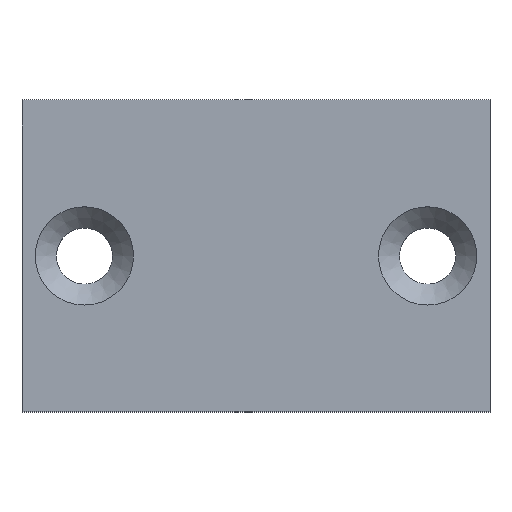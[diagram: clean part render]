
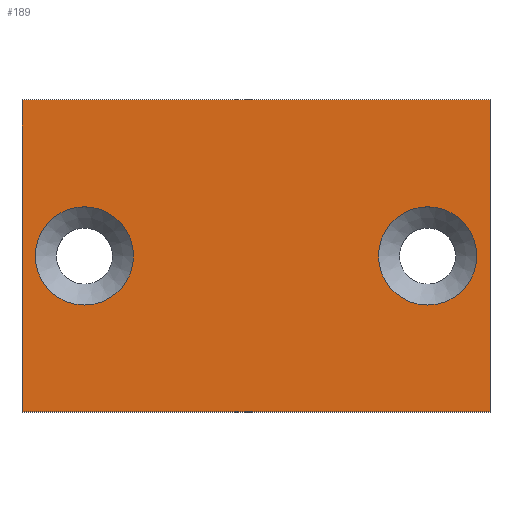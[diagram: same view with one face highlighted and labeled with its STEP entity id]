
A CAD part, top view. The second image highlights one B-rep face of the part: STEP entity #189.
In plain terms, the highlighted planar face has unit normal (0, 0, 1).
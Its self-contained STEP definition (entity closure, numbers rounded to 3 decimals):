
#19=LINE('',#303,#31);
#21=LINE('',#307,#33);
#23=LINE('',#311,#35);
#25=LINE('',#314,#37);
#31=VECTOR('',#252,20.);
#33=VECTOR('',#256,30.);
#35=VECTOR('',#260,20.);
#37=VECTOR('',#264,30.);
#43=PLANE('',#212);
#57=FACE_BOUND('',#89,.T.);
#58=FACE_BOUND('',#90,.T.);
#59=FACE_BOUND('',#91,.T.);
#89=EDGE_LOOP('',(#170));
#90=EDGE_LOOP('',(#171));
#91=EDGE_LOOP('',(#172,#173,#174,#175));
#96=CIRCLE('',#200,3.15);
#97=CIRCLE('',#202,3.15);
#104=VERTEX_POINT('',#279);
#105=VERTEX_POINT('',#282);
#112=VERTEX_POINT('',#300);
#113=VERTEX_POINT('',#302);
#114=VERTEX_POINT('',#306);
#115=VERTEX_POINT('',#310);
#120=EDGE_CURVE('',#104,#104,#96,.T.);
#121=EDGE_CURVE('',#105,#105,#97,.T.);
#129=EDGE_CURVE('',#113,#112,#19,.T.);
#131=EDGE_CURVE('',#114,#113,#21,.T.);
#133=EDGE_CURVE('',#115,#114,#23,.T.);
#135=EDGE_CURVE('',#112,#115,#25,.T.);
#170=ORIENTED_EDGE('',*,*,#120,.T.);
#171=ORIENTED_EDGE('',*,*,#121,.T.);
#172=ORIENTED_EDGE('',*,*,#135,.T.);
#173=ORIENTED_EDGE('',*,*,#133,.T.);
#174=ORIENTED_EDGE('',*,*,#131,.T.);
#175=ORIENTED_EDGE('',*,*,#129,.T.);
#189=ADVANCED_FACE('',(#57,#58,#59),#43,.T.);
#200=AXIS2_PLACEMENT_3D('',#280,#229,#230);
#202=AXIS2_PLACEMENT_3D('',#283,#233,#234);
#212=AXIS2_PLACEMENT_3D('',#315,#265,#266);
#229=DIRECTION('center_axis',(0.,0.,-1.));
#230=DIRECTION('ref_axis',(1.,0.,0.));
#233=DIRECTION('center_axis',(0.,0.,-1.));
#234=DIRECTION('ref_axis',(1.,0.,0.));
#252=DIRECTION('',(0.,1.,0.));
#256=DIRECTION('',(1.,0.,0.));
#260=DIRECTION('',(0.,-1.,0.));
#264=DIRECTION('',(-1.,0.,0.));
#265=DIRECTION('center_axis',(0.,0.,1.));
#266=DIRECTION('ref_axis',(1.,0.,0.));
#279=CARTESIAN_POINT('',(-7.85,0.,3.));
#280=CARTESIAN_POINT('Origin',(-11.,0.,3.));
#282=CARTESIAN_POINT('',(14.15,0.,3.));
#283=CARTESIAN_POINT('Origin',(11.,0.,3.));
#300=CARTESIAN_POINT('',(15.,10.,3.));
#302=CARTESIAN_POINT('',(15.,-10.,3.));
#303=CARTESIAN_POINT('',(15.,10.,3.));
#306=CARTESIAN_POINT('',(-15.,-10.,3.));
#307=CARTESIAN_POINT('',(15.,-10.,3.));
#310=CARTESIAN_POINT('',(-15.,10.,3.));
#311=CARTESIAN_POINT('',(-15.,-10.,3.));
#314=CARTESIAN_POINT('',(-15.,10.,3.));
#315=CARTESIAN_POINT('Origin',(0.,0.,3.));
